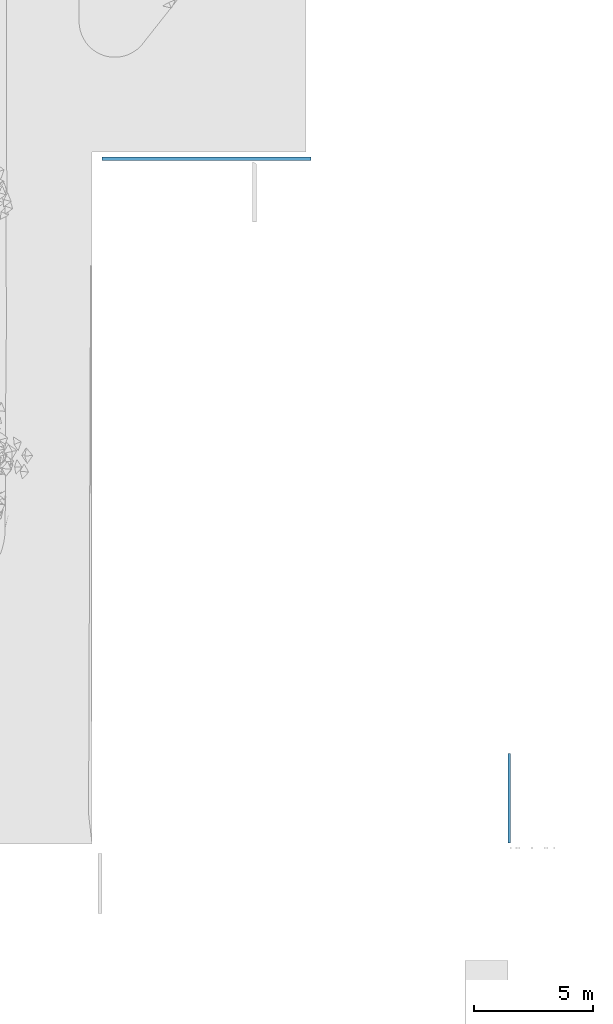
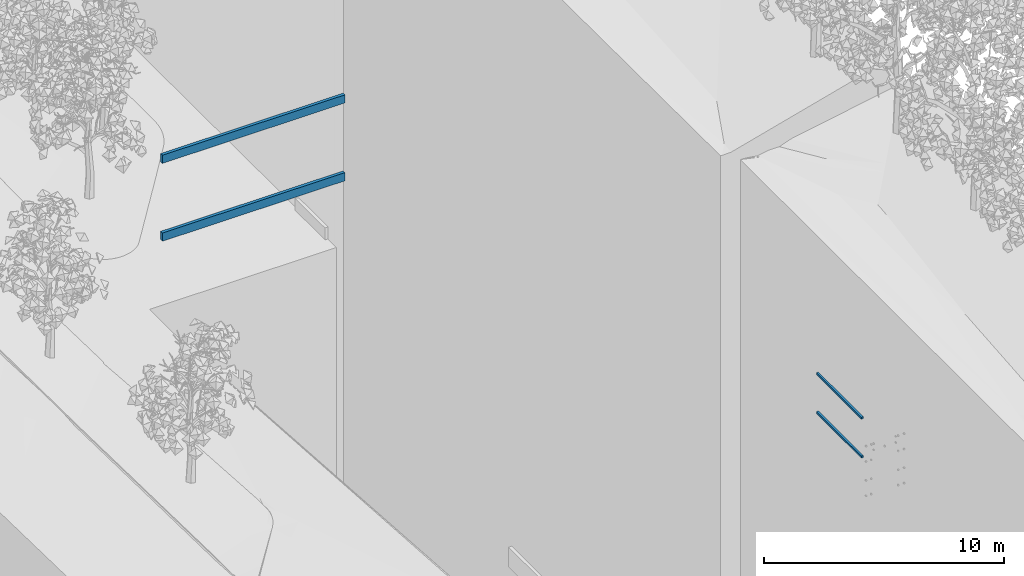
# One storey, part 7 of 69: 4 beams.
"""IFC2X3 building model written with IfcOpenShell, lengths in millimetres."""

from ifc_helpers import new_model, entity, si_unit, converted_unit, derived_unit, money_unit, direction, frame, frame_2d, origin_with_axes, place, context, subcontext, project, spatial, rectangle, extrude, material, type_object, element, save


model = new_model("IFC2X3")

# Units and contexts
model_context = context("Model", 3, precision=0.01, world=origin_with_axes(), true_north=direction((0.0, 1.0)))
body_context = subcontext(model_context, "Body", "Model", "MODEL_VIEW")
ifc_project = project(units=[si_unit("LENGTHUNIT", "METRE", prefix="MILLI"), si_unit("AREAUNIT", "SQUARE_METRE"), si_unit("VOLUMEUNIT", "CUBIC_METRE"), converted_unit("PLANEANGLEUNIT", "DEGREE", entity("IfcPlaneAngleMeasure", 0.0174532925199), si_unit("PLANEANGLEUNIT", "RADIAN"), dimensions=[0, 0, 0, 0, 0, 0, 0]), si_unit("SOLIDANGLEUNIT", "STERADIAN"), money_unit("EUR"), converted_unit("TIMEUNIT", "Year", entity("IfcTimeMeasure", 31556926.0), si_unit("TIMEUNIT", "SECOND"), dimensions=[0, 0, 1, 0, 0, 0, 0]), si_unit("MASSUNIT", "GRAM", prefix="KILO"), si_unit("THERMODYNAMICTEMPERATUREUNIT", "DEGREE_CELSIUS"), si_unit("LUMINOUSINTENSITYUNIT", "LUMEN"), si_unit("ENERGYUNIT", "JOULE", prefix="MEGA"), derived_unit("THERMALCONDUCTANCEUNIT", [(si_unit("POWERUNIT", "WATT"), 1), (si_unit("LENGTHUNIT", "METRE"), -1), (si_unit("THERMODYNAMICTEMPERATUREUNIT", "KELVIN"), -1)]), derived_unit("SPECIFICHEATCAPACITYUNIT", [(si_unit("ENERGYUNIT", "JOULE"), 1), (si_unit("MASSUNIT", "GRAM", prefix="KILO"), -1), (si_unit("THERMODYNAMICTEMPERATUREUNIT", "KELVIN"), -1)]), derived_unit("MASSDENSITYUNIT", [(si_unit("MASSUNIT", "GRAM", prefix="KILO"), 1), (si_unit("VOLUMEUNIT", "CUBIC_METRE"), -1)])], contexts=[model_context])

# Site, building, storey
site_placement = place(None, origin_with_axes())
site = spatial("IfcSite", under=ifc_project, at=site_placement, Name="Puškini 31, Narva", CompositionType="ELEMENT")
building_placement = place(site_placement, origin_with_axes())
building = spatial("IfcBuilding", under=site, at=building_placement, Name="Narva Riigigümnaasium", CompositionType="ELEMENT")
storey_placement = place(building_placement, origin_with_axes())
storey = spatial("IfcBuildingStorey", under=building, at=storey_placement, Name="1.korrus 0.00", CompositionType="ELEMENT", Elevation=0.0)

# Beams
ifc_material = material(Name="ET-06_Teras - Konstruktsioon")
beam_type_1 = type_object("IfcBeamType", Name="ET-06_Teras - Konstruktsioon 100 x 100", PredefinedType="BEAM")
for number, where, z_axis, x_axis in (
    (1, (45499.9999986, 195150.0, 2690.0), (0.0, 0.0, 1.0), (1.0, -1.8474252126e-10, 0.0)),
    (2, (45499.9999993, 195150.0, 710.0), (0.0, 0.0, 1.0), (1.0, -1.8474252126e-10, 0.0)),
):
    element("IfcBeam", number, at=place(storey_placement, frame(where, z_axis=z_axis, x_axis=x_axis)), inside=storey, type_object=beam_type_1, material=ifc_material, Name="TALA", ObjectType="BEAM", context=body_context, shape_type="SweptSolid", body=[
        extrude(rectangle(XDim=100.0, YDim=100.0, at=frame_2d((-50.0, 50.0), x_axis=(1.0, 0.0))), frame((0.0, 0.0, 0.0), z_axis=(0.0, 1.0, 0.0), x_axis=(0.0, 0.0, 1.0)), (0.0, 0.0, 1.0), 3756.97132642),
    ])
beam_type_2 = type_object("IfcBeamType", Name="ET-06_Teras - Konstruktsioon 150 x 415", PredefinedType="BEAM")
beam_1_placement = place(storey_placement, frame((28400.0401775, 224000.000005, 4620.0), z_axis=(0.0, 0.0, 1.0), x_axis=(-7.30315306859e-10, -1.0, 0.0)))
element("IfcBeam", 3, at=beam_1_placement, inside=storey, type_object=beam_type_2, material=ifc_material, Name="TALA", ObjectType="BEAM", context=body_context, shape_type="SweptSolid", body=[
    extrude(rectangle(XDim=415.000000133, YDim=150.0, at=frame_2d((-207.500000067, 75.0), x_axis=(1.0, 0.0))), frame((0.0, 0.0, 0.0), z_axis=(0.0, 1.0, 0.0), x_axis=(0.0, 0.0, 1.0)), (0.0, 0.0, 1.0), 8799.95982249),
])
beam_type_3 = type_object("IfcBeamType", Name="ET-06_Teras - Konstruktsioon 150 x 420", PredefinedType="BEAM")
beam_2_placement = place(storey_placement, frame((28400.0401775, 224000.000005, 660.000018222), z_axis=(0.0, 0.0, 1.0), x_axis=(-7.30315306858e-10, -1.0, 0.0)))
element("IfcBeam", 4, at=beam_2_placement, inside=storey, type_object=beam_type_3, material=ifc_material, Name="TALA", ObjectType="BEAM", context=body_context, shape_type="SweptSolid", body=[
    extrude(rectangle(XDim=420.000018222, YDim=150.0, at=frame_2d((-210.000009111, 75.0), x_axis=(1.0, 0.0))), frame((0.0, 0.0, 0.0), z_axis=(0.0, 1.0, 0.0), x_axis=(0.0, 0.0, 1.0)), (0.0, 0.0, 1.0), 8799.9598225),
])

save(model, "model.ifc")
